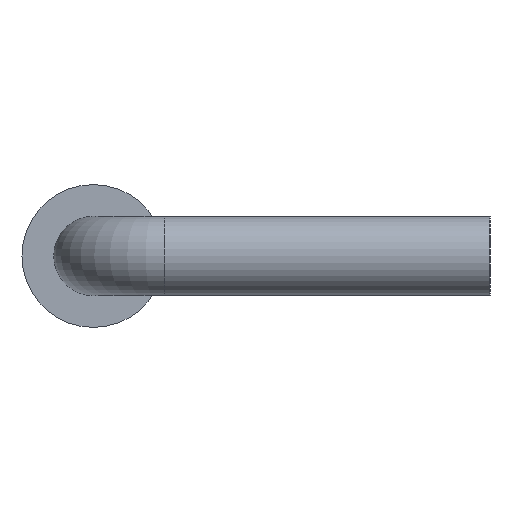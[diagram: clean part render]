
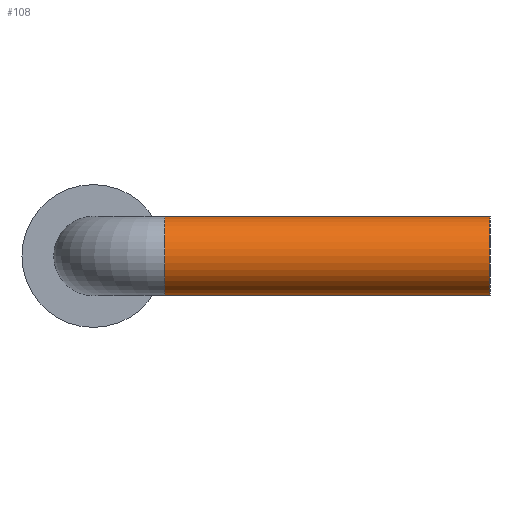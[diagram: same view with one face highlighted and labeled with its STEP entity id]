
A CAD part, left-side view. The second image highlights one B-rep face of the part: STEP entity #108.
In plain terms, the highlighted cylindrical face has radius 0.318 mm (diameter 0.635 mm), a full revolution.
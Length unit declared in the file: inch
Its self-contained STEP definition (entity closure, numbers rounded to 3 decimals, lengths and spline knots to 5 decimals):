
#24=CYLINDRICAL_SURFACE('',#137,0.0125);
#38=ORIENTED_EDGE('',*,*,#46,.F.);
#39=ORIENTED_EDGE('',*,*,#48,.T.);
#46=EDGE_CURVE('',#54,#54,#62,.T.);
#48=EDGE_CURVE('',#56,#56,#64,.T.);
#54=VERTEX_POINT('',#193);
#56=VERTEX_POINT('',#200);
#62=CIRCLE('',#133,0.0125);
#64=CIRCLE('',#138,0.0125);
#78=EDGE_LOOP('',(#38));
#79=EDGE_LOOP('',(#39));
#94=FACE_BOUND('',#78,.T.);
#95=FACE_BOUND('',#79,.T.);
#108=ADVANCED_FACE('',(#94,#95),#24,.T.);
#133=AXIS2_PLACEMENT_3D('',#192,#162,#163);
#137=AXIS2_PLACEMENT_3D('',#198,#170,#171);
#138=AXIS2_PLACEMENT_3D('',#199,#172,#173);
#162=DIRECTION('',(0.,1.,0.));
#163=DIRECTION('',(1.,0.,0.));
#170=DIRECTION('',(0.,-1.,0.));
#171=DIRECTION('',(0.,0.,-1.));
#172=DIRECTION('',(0.,1.,0.));
#173=DIRECTION('',(1.,0.,0.));
#192=CARTESIAN_POINT('',(-0.2,0.1025,0.));
#193=CARTESIAN_POINT('',(-0.1875,0.1025,0.));
#198=CARTESIAN_POINT('',(-0.2,0.1025,0.));
#199=CARTESIAN_POINT('',(-0.2,0.,0.));
#200=CARTESIAN_POINT('',(-0.1875,0.,0.));
